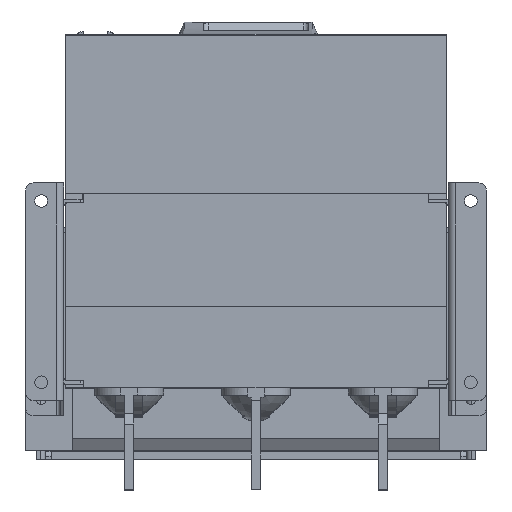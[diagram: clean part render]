
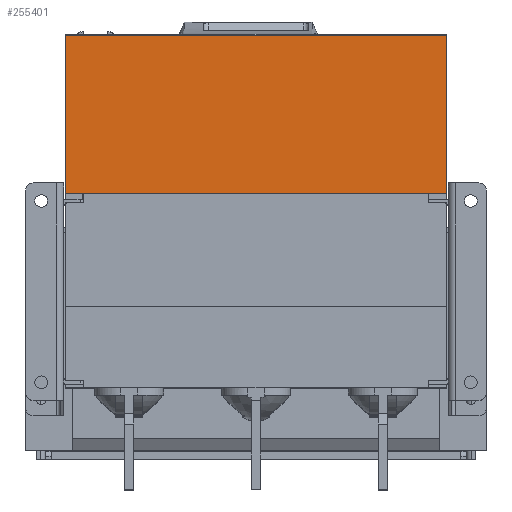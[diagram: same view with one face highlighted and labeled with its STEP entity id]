
A CAD part, top view. The second image highlights one B-rep face of the part: STEP entity #255401.
In plain terms, the highlighted planar face has unit normal (0, 0, 1).
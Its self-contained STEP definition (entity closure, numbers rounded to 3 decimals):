
#255226=DIRECTION(' ',(0.,0.,1.));
#255231=CARTESIAN_POINT(' ',(162.437,76.5,0.));
#255236=DIRECTION(' ',(1.,0.,0.));
#255241=AXIS2_PLACEMENT_3D(' ',#255231,#255226,#255236);
#255246=PLANE('',#255241);
#255251=CARTESIAN_POINT(' ',(162.437,76.5,0.));
#255256=DIRECTION(' ',(0.,1.,0.));
#255261=VECTOR(' ',#255256,1.);
#255266=LINE('',#255251,#255261);
#255271=CARTESIAN_POINT(' ',(162.437,76.5,0.));
#255272=VERTEX_POINT(' ',#255271);
#255276=CARTESIAN_POINT(' ',(162.437,164.,0.));
#255277=VERTEX_POINT(' ',#255276);
#255281=EDGE_CURVE(' ',#255272,#255277,#255266,.T.);
#255286=ORIENTED_EDGE(' ',*,*,#255281,.F.);
#255291=CARTESIAN_POINT(' ',(162.437,76.5,0.));
#255296=DIRECTION(' ',(1.,0.,0.));
#255301=VECTOR(' ',#255296,1.);
#255306=LINE('',#255291,#255301);
#255311=CARTESIAN_POINT(' ',(372.437,76.5,0.));
#255312=VERTEX_POINT(' ',#255311);
#255316=EDGE_CURVE(' ',#255272,#255312,#255306,.T.);
#255321=ORIENTED_EDGE(' ',*,*,#255316,.T.);
#255326=CARTESIAN_POINT(' ',(372.437,164.,0.));
#255331=DIRECTION(' ',(0.,-1.,0.));
#255336=VECTOR(' ',#255331,1.);
#255341=LINE('',#255326,#255336);
#255346=CARTESIAN_POINT(' ',(372.437,164.,0.));
#255347=VERTEX_POINT(' ',#255346);
#255351=EDGE_CURVE(' ',#255347,#255312,#255341,.T.);
#255356=ORIENTED_EDGE(' ',*,*,#255351,.F.);
#255361=CARTESIAN_POINT(' ',(372.437,164.,0.));
#255366=DIRECTION(' ',(-1.,0.,0.));
#255371=VECTOR(' ',#255366,1.);
#255376=LINE('',#255361,#255371);
#255381=EDGE_CURVE(' ',#255347,#255277,#255376,.T.);
#255386=ORIENTED_EDGE(' ',*,*,#255381,.T.);
#255391=EDGE_LOOP(' ',(#255286,#255321,#255356,#255386));
#255396=FACE_OUTER_BOUND(' ',#255391,.T.);
#255401=ADVANCED_FACE('NONE',(#255396),#255246,.T.);
